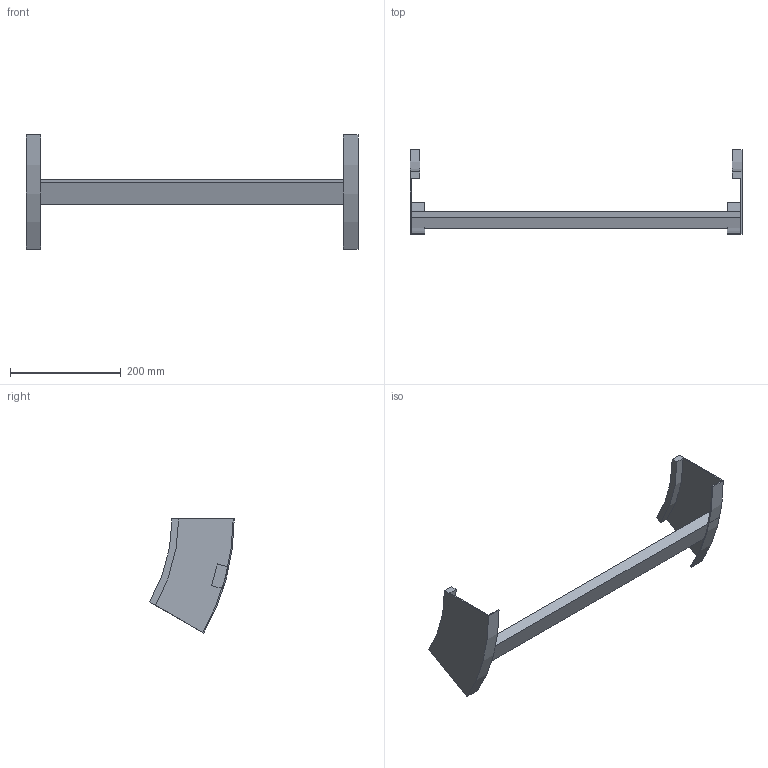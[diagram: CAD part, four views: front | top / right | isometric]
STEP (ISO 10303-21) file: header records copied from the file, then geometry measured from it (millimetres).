
FILE_DESCRIPTION (( 'STEP AP214' ), '1' );
FILE_NAME ('B2X32B3J600XX.step', '2025-03-20T10:00:31', ( '' ), ( '' ), 'SwSTEP 2.0', 'SolidWorks 2023', '' );
FILE_SCHEMA (( 'AUTOMOTIVE_DESIGN' ));
Length unit declared in the file: millimetre
Products named in the file (3): B2_LONGH.SALITA_30°_H112.5_R300; TRAVERSINO_600; B2X32B3J600XX
Assembly tree (3 placements, depth 2):
  B2X32B3J600XX
    B2_LONGH.SALITA_30°_H112.5_R300  x2
    TRAVERSINO_600
Bounding box: 600 x 152.69 x 206.25 mm (x, y, z)
Volume: 649770.5 mm3; surface area: 192835.9 mm2
Topology: 3 solids, 3 shells, 26 faces, 60 edges, 40 vertices
Faces by surface type: plane 18, cylinder 8
Entity records: 544 total; most frequent: DIRECTION 88, CARTESIAN_POINT 82, ORIENTED_EDGE 72, EDGE_CURVE 36, AXIS2_PLACEMENT_3D 30, LINE 28, VECTOR 28, VERTEX_POINT 24
